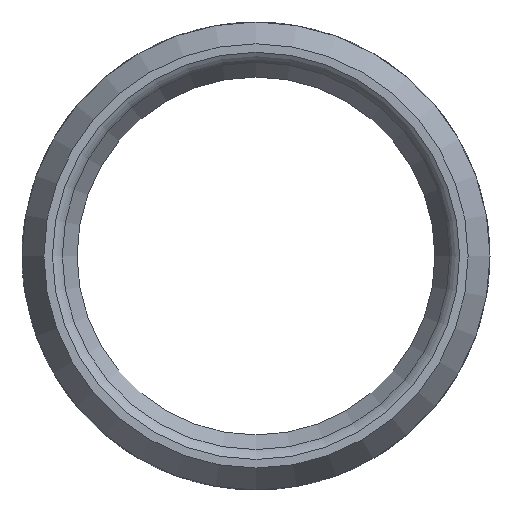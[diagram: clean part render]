
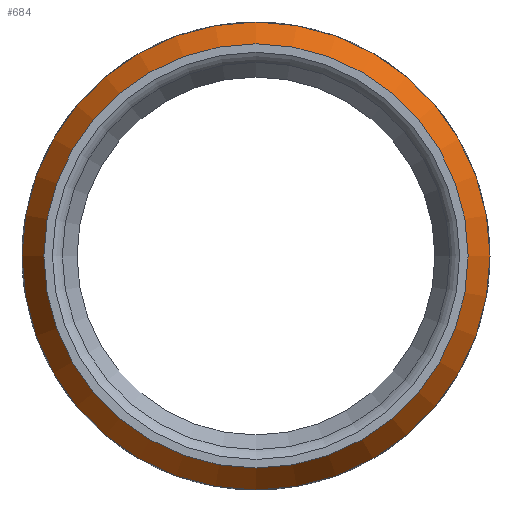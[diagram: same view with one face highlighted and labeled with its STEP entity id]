
A CAD part, top view. The second image highlights one B-rep face of the part: STEP entity #684.
In plain terms, the highlighted conical face has half-angle 30 degrees and reference radius 40.803 mm.
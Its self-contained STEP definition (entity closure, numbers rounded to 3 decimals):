
#20=CONICAL_SURFACE('',#764,40.804,0.524);
#33=CIRCLE('',#722,38.53);
#47=CIRCLE('',#762,42.5);
#48=CIRCLE('',#763,42.5);
#95=FACE_OUTER_BOUND('',#132,.T.);
#132=EDGE_LOOP('',(#623,#624,#625,#626,#627));
#200=LINE('',#1171,#264);
#264=VECTOR('',#962,40.804);
#306=VERTEX_POINT('',#1071);
#329=VERTEX_POINT('',#1165);
#330=VERTEX_POINT('',#1166);
#379=EDGE_CURVE('',#306,#306,#33,.F.);
#426=EDGE_CURVE('',#329,#330,#47,.T.);
#428=EDGE_CURVE('',#330,#329,#48,.T.);
#429=EDGE_CURVE('',#330,#306,#200,.T.);
#623=ORIENTED_EDGE('',*,*,#426,.T.);
#624=ORIENTED_EDGE('',*,*,#429,.T.);
#625=ORIENTED_EDGE('',*,*,#379,.T.);
#626=ORIENTED_EDGE('',*,*,#429,.F.);
#627=ORIENTED_EDGE('',*,*,#428,.T.);
#684=ADVANCED_FACE('',(#95),#20,.T.);
#722=AXIS2_PLACEMENT_3D('',#1072,#844,#845);
#762=AXIS2_PLACEMENT_3D('',#1167,#955,#956);
#763=AXIS2_PLACEMENT_3D('',#1169,#958,#959);
#764=AXIS2_PLACEMENT_3D('',#1170,#960,#961);
#844=DIRECTION('center_axis',(0.,0.,1.));
#845=DIRECTION('ref_axis',(0.,1.,0.));
#955=DIRECTION('center_axis',(0.,0.,1.));
#956=DIRECTION('ref_axis',(1.,0.,0.));
#958=DIRECTION('center_axis',(0.,0.,1.));
#959=DIRECTION('ref_axis',(1.,0.,0.));
#960=DIRECTION('center_axis',(0.,0.,-1.));
#961=DIRECTION('ref_axis',(0.,1.,0.));
#962=DIRECTION('',(0.,0.5,0.866));
#1071=CARTESIAN_POINT('',(6.564,-0.793,210.923));
#1072=CARTESIAN_POINT('Origin',(6.564,37.737,210.923));
#1165=CARTESIAN_POINT('',(-35.936,37.737,204.047));
#1166=CARTESIAN_POINT('',(6.564,-4.763,204.047));
#1167=CARTESIAN_POINT('Origin',(6.564,37.737,204.047));
#1169=CARTESIAN_POINT('Origin',(6.564,37.737,204.047));
#1170=CARTESIAN_POINT('Origin',(6.564,37.737,206.985));
#1171=CARTESIAN_POINT('',(6.564,-3.067,206.985));
